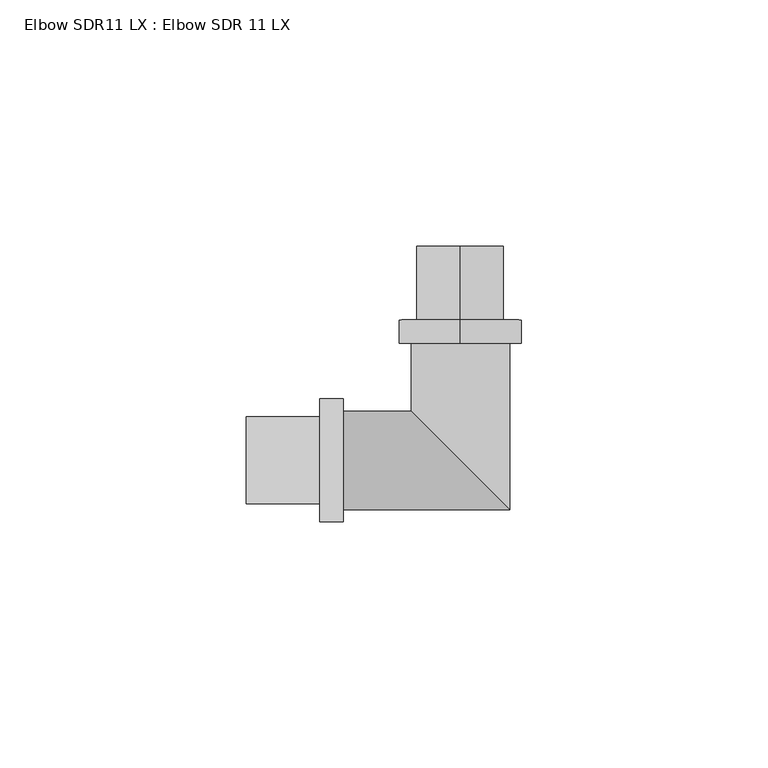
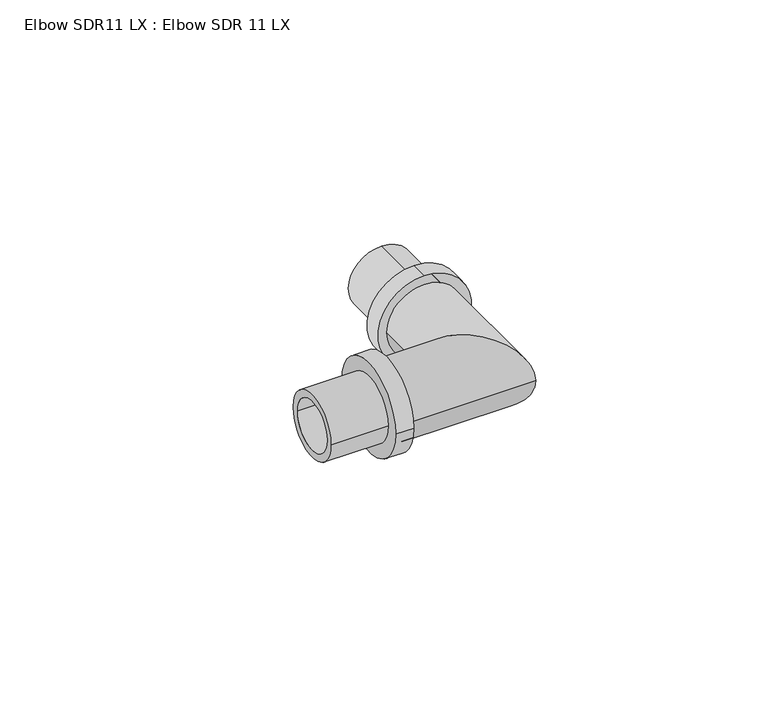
"""IFC4 building model written with IfcOpenShell, lengths in millimetres: pipe fitting geometry, Elbow SDR11 LX : Elbow SDR 11 LX."""

from ifc_helpers import new_model, si_unit, frame, origin, place, context, project, spatial, polyline, circle_curve, ellipse_curve, source, transform, mapped, element, save
from ifc_brep_helpers import plane_surface, cylinder_surface, revolved_surface, advanced_brep


def elbow_sdr11_lx_elbow_sdr_11_lx_9afd64a0(model_context):
    return source(origin(), model_context, "Body", "AdvancedBrep", [
        advanced_brep(
        [(-23.8, -10.0, 0.0), (-23.8, 10.0, 0.0), (-23.8, -6.8, 0.0), (-23.8, 6.8, 0.0), (10.0, -10.0, 0.0), (-10.0, 10.0, 0.0), (6.8, -6.8, 0.0), (-6.8, 6.8, 0.0), (10.0, 23.8, 0.0), (-10.0, 23.8, 0.0), (6.8, 23.8, 0.0), (-6.8, 23.8, 0.0)],
        [
            (0, 1, circle_curve(frame((-23.8, 0.0, 0.0), z_axis=(-1.0, 0.0, 0.0), x_axis=(0.0, 1.0, 0.0)), 10.0)),
            (1, 0, circle_curve(frame((-23.8, 0.0, 0.0), z_axis=(-1.0, 0.0, 0.0), x_axis=(0.0, 1.0, 0.0)), 10.0)),
            (2, 3, circle_curve(frame((-23.8, 0.0, 0.0), z_axis=(1.0, 0.0, 0.0), x_axis=(0.0, 1.0, 0.0)), 6.8)),
            (3, 2, circle_curve(frame((-23.8, 0.0, 0.0), z_axis=(1.0, 0.0, 0.0), x_axis=(0.0, 1.0, 0.0)), 6.8)),
            (0, 4),
            (4, 5, ellipse_curve(frame((0.0, 0.0, 0.0), z_axis=(-0.7071067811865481, -0.7071067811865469, 0.0), x_axis=(-0.7071067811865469, 0.7071067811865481, 0.0)), 14.1421356, 10.0)),
            (5, 1),
            (5, 4, ellipse_curve(frame((0.0, 0.0, 0.0), z_axis=(-0.7071067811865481, -0.7071067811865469, 0.0), x_axis=(-0.7071067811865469, 0.7071067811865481, 0.0)), 14.1421356, 10.0)),
            (2, 6),
            (6, 7, ellipse_curve(frame((0.0, 0.0, 0.0), z_axis=(0.7071067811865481, 0.7071067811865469, 0.0), x_axis=(0.7071067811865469, -0.7071067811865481, 0.0)), 9.6166522, 6.8)),
            (7, 3),
            (7, 6, ellipse_curve(frame((0.0, 0.0, 0.0), z_axis=(0.7071067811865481, 0.7071067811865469, 0.0), x_axis=(0.7071067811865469, -0.7071067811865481, 0.0)), 9.6166522, 6.8)),
            (8, 9, circle_curve(frame((0.0, 23.8, 0.0), z_axis=(0.0, 1.0, 0.0), x_axis=(-1.0, 0.0, 0.0)), 10.0)),
            (9, 8, circle_curve(frame((0.0, 23.8, 0.0), z_axis=(0.0, 1.0, 0.0), x_axis=(-1.0, 0.0, 0.0)), 10.0)),
            (10, 11, circle_curve(frame((0.0, 23.8, 0.0), z_axis=(0.0, -1.0, 0.0), x_axis=(-1.0, 0.0, 0.0)), 6.8)),
            (11, 10, circle_curve(frame((0.0, 23.8, 0.0), z_axis=(0.0, -1.0, 0.0), x_axis=(-1.0, 0.0, 0.0)), 6.8)),
            (4, 8),
            (9, 5),
            (6, 10),
            (11, 7),
        ],
        [
            plane_surface(frame((-23.8, 0.0, 0.0), z_axis=(-1.0, 0.0, 0.0), x_axis=(0.0, 0.0, 1.0))),
            cylinder_surface(frame((-23.8, 0.0, 0.0), z_axis=(-1.0, 0.0, 0.0), x_axis=(0.0, 1.0, 0.0)), 10.0),
            revolved_surface(polyline([(6.800000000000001, 6.8, 0.0), (-23.8, 6.8, 0.0)]), (-23.8, 0.0, 0.0), (1.0, 0.0, 0.0)),
            plane_surface(frame((0.0, 23.8, 0.0), z_axis=(0.0, 1.0, 0.0), x_axis=(0.0, 0.0, 1.0))),
            cylinder_surface(frame((0.0, 0.0, 0.0), z_axis=(0.0, -1.0, 0.0), x_axis=(-1.0, 0.0, 0.0)), 10.0),
            revolved_surface(polyline([(-6.8, 23.8, 0.0), (-6.8, -6.8, 0.0)]), (0.0, 0.0, 0.0), (0.0, 1.0, 0.0)),
        ],
        [
            (0, [[1, 2], [3, 4]]),
            (1, [[-1, 5, 6, 7]]),
            (1, [[-2, -7, 8, -5]]),
            (2, [[-3, 9, 10, 11]]),
            (2, [[-4, -11, 12, -9]]),
            (3, [[13, 14], [15, 16]]),
            (4, [[-6, 17, -14, 18]]),
            (4, [[-8, -18, -13, -17]]),
            (5, [[-10, 19, -16, 20]]),
            (5, [[-12, -20, -15, -19]]),
        ],
    ),
        advanced_brep(
        [(0.0, 43.5, 6.8), (0.0, 43.5, -6.8), (0.0, 23.8, -6.8), (0.0, 23.8, 6.8), (0.0, 28.5, 8.8), (0.0, 28.5, -8.8), (0.0, 43.5, -8.8), (0.0, 43.5, 8.8), (0.0, 23.8, 12.5), (0.0, 23.8, -12.5), (0.0, 28.5, -12.5), (0.0, 28.5, 12.5)],
        [
            (0, 1, circle_curve(frame((0.0, 43.5, 0.0), z_axis=(0.0, 1.0, 0.0), x_axis=(0.0, 0.0, -1.0)), 6.8)),
            (1, 2),
            (2, 3, circle_curve(frame((0.0, 23.8, 0.0), z_axis=(0.0, -1.0, 0.0), x_axis=(0.0, 0.0, -1.0)), 6.8)),
            (3, 0),
            (4, 5, circle_curve(frame((0.0, 28.5, 0.0), z_axis=(0.0, 1.0, 0.0), x_axis=(0.0, 0.0, -1.0)), 8.8)),
            (5, 6),
            (6, 7, circle_curve(frame((0.0, 43.5, 0.0), z_axis=(0.0, -1.0, 0.0), x_axis=(0.0, 0.0, -1.0)), 8.8)),
            (7, 4),
            (8, 9, circle_curve(frame((0.0, 23.8, 0.0), z_axis=(0.0, 1.0, 0.0), x_axis=(0.0, 0.0, -1.0)), 12.5)),
            (9, 10),
            (10, 11, circle_curve(frame((0.0, 28.5, 0.0), z_axis=(0.0, -1.0, 0.0), x_axis=(0.0, 0.0, -1.0)), 12.5)),
            (11, 8),
            (1, 0, circle_curve(frame((0.0, 43.5, 0.0), z_axis=(0.0, 1.0, 0.0), x_axis=(0.0, 0.0, 1.0)), 6.8)),
            (3, 2, circle_curve(frame((0.0, 23.8, 0.0), z_axis=(0.0, -1.0, 0.0), x_axis=(0.0, 0.0, 1.0)), 6.8)),
            (6, 7, circle_curve(frame((0.0, 43.5, 0.0), z_axis=(0.0, 1.0, 0.0), x_axis=(0.0, 0.0, 1.0)), 8.8)),
            (5, 4, circle_curve(frame((0.0, 28.5, 0.0), z_axis=(0.0, 1.0, 0.0), x_axis=(0.0, 0.0, 1.0)), 8.8)),
            (10, 11, circle_curve(frame((0.0, 28.5, 0.0), z_axis=(0.0, 1.0, 0.0), x_axis=(0.0, 0.0, 1.0)), 12.5)),
            (9, 8, circle_curve(frame((0.0, 23.8, 0.0), z_axis=(0.0, 1.0, 0.0), x_axis=(0.0, 0.0, 1.0)), 12.5)),
        ],
        [
            revolved_surface(polyline([(0.0, 23.8, -6.8), (0.0, 43.5, -6.8)]), (0.0, 0.0, 0.0), (0.0, -1.0, 0.0)),
            cylinder_surface(frame((0.0, 0.0, 0.0), z_axis=(0.0, -1.0, 0.0), x_axis=(0.0, 0.0, -1.0)), 8.8),
            cylinder_surface(frame((0.0, 0.0, 0.0), z_axis=(0.0, -1.0, 0.0), x_axis=(0.0, 0.0, -1.0)), 12.5),
            revolved_surface(polyline([(0.0, 23.8, 6.8), (0.0, 43.5, 6.8)]), (0.0, 0.0, 0.0), (0.0, -1.0, 0.0)),
            plane_surface(frame((0.0, 43.5, 0.0), z_axis=(0.0, 1.0, 0.0), x_axis=(0.0, 0.0, 1.0))),
            cylinder_surface(frame((0.0, 0.0, 0.0), z_axis=(0.0, -1.0, 0.0), x_axis=(0.0, 0.0, 1.0)), 8.8),
            plane_surface(frame((0.0, 28.5, 0.0), z_axis=(0.0, 1.0, 0.0), x_axis=(0.0, 0.0, 1.0))),
            cylinder_surface(frame((0.0, 0.0, 0.0), z_axis=(0.0, -1.0, 0.0), x_axis=(0.0, 0.0, 1.0)), 12.5),
            plane_surface(frame((0.0, 23.8, 0.0), z_axis=(0.0, -1.0, 0.0), x_axis=(0.0, 0.0, 1.0))),
        ],
        [
            (0, [[1, 2, 3, 4]]),
            (1, [[5, 6, 7, 8]]),
            (2, [[9, 10, 11, 12]]),
            (3, [[13, -4, 14, -2]]),
            (4, [[15, -7], [-13, -1]]),
            (5, [[16, -8, -15, -6]]),
            (6, [[17, -11], [-16, -5]]),
            (7, [[18, -12, -17, -10]]),
            (8, [[-18, -9], [-14, -3]]),
        ],
    ),
        advanced_brep(
        [(-23.8, 12.5, 0.0), (-23.8, -12.5, 0.0), (-28.5, -12.5, 0.0), (-28.5, 12.5, 0.0), (-28.5, 8.8, 0.0), (-28.5, -8.8, 0.0), (-43.5, -8.8, 0.0), (-43.5, 8.8, 0.0), (-43.5, 6.8, 0.0), (-43.5, -6.8, 0.0), (-23.8, -6.8, 0.0), (-23.8, 6.8, 0.0)],
        [
            (0, 1, circle_curve(frame((-23.8, 0.0, 0.0), z_axis=(-1.0, 0.0, 0.0), x_axis=(0.0, -1.0, 0.0)), 12.5)),
            (1, 2),
            (2, 3, circle_curve(frame((-28.5, 0.0, 0.0), z_axis=(1.0, 0.0, 0.0), x_axis=(0.0, -1.0, 0.0)), 12.5)),
            (3, 0),
            (4, 5, circle_curve(frame((-28.5, 0.0, 0.0), z_axis=(-1.0, 0.0, 0.0), x_axis=(0.0, -1.0, 0.0)), 8.8)),
            (5, 6),
            (6, 7, circle_curve(frame((-43.5, 0.0, 0.0), z_axis=(1.0, 0.0, 0.0), x_axis=(0.0, -1.0, 0.0)), 8.8)),
            (7, 4),
            (8, 9, circle_curve(frame((-43.5, 0.0, 0.0), z_axis=(-1.0, 0.0, 0.0), x_axis=(0.0, -1.0, 0.0)), 6.8)),
            (9, 10),
            (10, 11, circle_curve(frame((-23.8, 0.0, 0.0), z_axis=(1.0, 0.0, 0.0), x_axis=(0.0, -1.0, 0.0)), 6.8)),
            (11, 8),
            (0, 1, circle_curve(frame((-23.8, 0.0, 0.0), z_axis=(1.0, 0.0, 0.0), x_axis=(0.0, 1.0, 0.0)), 12.5)),
            (10, 11, circle_curve(frame((-23.8, 0.0, 0.0), z_axis=(-1.0, 0.0, 0.0), x_axis=(0.0, 1.0, 0.0)), 6.8)),
            (3, 2, circle_curve(frame((-28.5, 0.0, 0.0), z_axis=(1.0, 0.0, 0.0), x_axis=(0.0, 1.0, 0.0)), 12.5)),
            (4, 5, circle_curve(frame((-28.5, 0.0, 0.0), z_axis=(1.0, 0.0, 0.0), x_axis=(0.0, 1.0, 0.0)), 8.8)),
            (7, 6, circle_curve(frame((-43.5, 0.0, 0.0), z_axis=(1.0, 0.0, 0.0), x_axis=(0.0, 1.0, 0.0)), 8.8)),
            (8, 9, circle_curve(frame((-43.5, 0.0, 0.0), z_axis=(1.0, 0.0, 0.0), x_axis=(0.0, 1.0, 0.0)), 6.8)),
        ],
        [
            cylinder_surface(frame((0.0, 0.0, 0.0), z_axis=(1.0, 0.0, 0.0), x_axis=(0.0, -1.0, 0.0)), 12.5),
            cylinder_surface(frame((0.0, 0.0, 0.0), z_axis=(1.0, 0.0, 0.0), x_axis=(0.0, -1.0, 0.0)), 8.8),
            revolved_surface(polyline([(-23.8, -6.8, 0.0), (-43.5, -6.8, 0.0)]), (0.0, 0.0, 0.0), (1.0, 0.0, 0.0)),
            plane_surface(frame((-23.8, 0.0, 0.0), z_axis=(1.0, 0.0, 0.0), x_axis=(0.0, 1.0, 0.0))),
            cylinder_surface(frame((0.0, 0.0, 0.0), z_axis=(1.0, 0.0, 0.0), x_axis=(0.0, 1.0, 0.0)), 12.5),
            plane_surface(frame((-28.5, 0.0, 0.0), z_axis=(-1.0, 0.0, 0.0), x_axis=(0.0, 1.0, 0.0))),
            cylinder_surface(frame((0.0, 0.0, 0.0), z_axis=(1.0, 0.0, 0.0), x_axis=(0.0, 1.0, 0.0)), 8.8),
            plane_surface(frame((-43.5, 0.0, 0.0), z_axis=(-1.0, 0.0, 0.0), x_axis=(0.0, 1.0, 0.0))),
            revolved_surface(polyline([(-23.8, 6.8, 0.0), (-43.5, 6.8, 0.0)]), (0.0, 0.0, 0.0), (1.0, 0.0, 0.0)),
        ],
        [
            (0, [[1, 2, 3, 4]]),
            (1, [[5, 6, 7, 8]]),
            (2, [[9, 10, 11, 12]]),
            (3, [[13, -1], [14, -11]]),
            (4, [[-13, -4, 15, -2]]),
            (5, [[-15, -3], [16, -5]]),
            (6, [[-16, -8, 17, -6]]),
            (7, [[-17, -7], [18, -9]]),
            (8, [[-18, -12, -14, -10]]),
        ],
    ),
    ])


if __name__ == "__main__":
    model = new_model("IFC4")
    model_context = context("Model", 3, world=origin())
    ifc_project = project(units=[si_unit("LENGTHUNIT", "METRE", prefix="MILLI")], contexts=[model_context])
    site = spatial("IfcSite", under=ifc_project)
    building = spatial("IfcBuilding", under=site)
    placement = place(None, origin())
    elbow_sdr11_lx_elbow_sdr_11_lx_shape = elbow_sdr11_lx_elbow_sdr_11_lx_9afd64a0(model_context)
    element("IfcPipeFitting", 1, ObjectType="Elbow SDR11 LX : Elbow SDR 11 LX", at=placement, inside=building, context=model_context, shape_type="MappedRepresentation", body=[
        mapped(elbow_sdr11_lx_elbow_sdr_11_lx_shape, transform((0.0, 0.0, 0.0), x_axis=(1.0, 0.0, 0.0), y_axis=(0.0, 1.0, 0.0), z_axis=(0.0, 0.0, 1.0))),
    ])
    save(model, "model.ifc")
